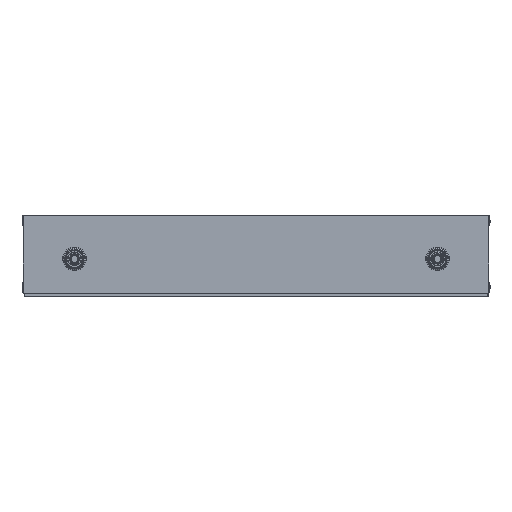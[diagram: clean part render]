
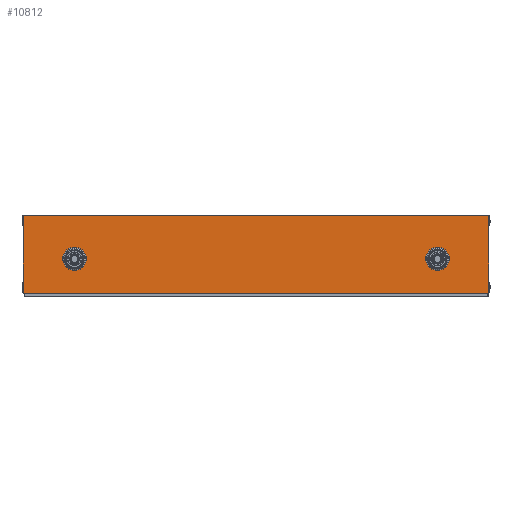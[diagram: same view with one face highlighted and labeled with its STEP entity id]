
A CAD part, front view. The second image highlights one B-rep face of the part: STEP entity #10812.
In plain terms, the highlighted planar face has unit normal (0, -1, 0) as drawn and (0, 0, -1) by its records, which use the part's own axes.
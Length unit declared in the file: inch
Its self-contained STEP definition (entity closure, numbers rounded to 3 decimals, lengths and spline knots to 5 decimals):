
#72 = DIRECTION ( 'NONE',  ( 1., 0., 0. ) ) ;
#74 = ORIENTED_EDGE ( 'NONE', *, *, #2788, .F. ) ;
#244 = DIRECTION ( 'NONE',  ( 1., 0., 0. ) ) ;
#506 = DIRECTION ( 'NONE',  ( 0., 0., 1. ) ) ;
#1748 = AXIS2_PLACEMENT_3D ( 'NONE', #9332, #14907, #17569 ) ;
#1884 = DIRECTION ( 'NONE',  ( 0., 0., 1. ) ) ;
#1920 = PLANE ( 'NONE',  #1748 ) ;
#2491 = LINE ( 'NONE', #7703, #7451 ) ;
#2788 = EDGE_CURVE ( 'NONE', #5948, #18733, #2491, .T. ) ;
#2857 = VERTEX_POINT ( 'NONE', #6608 ) ;
#2869 = DIRECTION ( 'NONE',  ( 0., 0., 1. ) ) ;
#2981 = EDGE_CURVE ( 'NONE', #15999, #15242, #5924, .T. ) ;
#3385 = LINE ( 'NONE', #11358, #23269 ) ;
#4422 = CARTESIAN_POINT ( 'NONE',  ( 0., 0., 0. ) ) ;
#5068 = AXIS2_PLACEMENT_3D ( 'NONE', #16865, #506, #244 ) ;
#5137 = DIRECTION ( 'NONE',  ( 1., 0., 0. ) ) ;
#5213 = CARTESIAN_POINT ( 'NONE',  ( 5.70995, 3.93585, 0. ) ) ;
#5511 = CARTESIAN_POINT ( 'NONE',  ( 38.60583, 3.93596, 0. ) ) ;
#5675 = DIRECTION ( 'NONE',  ( 0., 1., 0. ) ) ;
#5924 = CIRCLE ( 'NONE', #15232, 1.0625 ) ;
#5948 = VERTEX_POINT ( 'NONE', #4422 ) ;
#6608 = CARTESIAN_POINT ( 'NONE',  ( 0., 7.05476, 0. ) ) ;
#6962 = ORIENTED_EDGE ( 'NONE', *, *, #20545, .F. ) ;
#7082 = ORIENTED_EDGE ( 'NONE', *, *, #2981, .T. ) ;
#7341 = CIRCLE ( 'NONE', #11641, 1.0625 ) ;
#7451 = VECTOR ( 'NONE', #13034, 39.37008 ) ;
#7578 = AXIS2_PLACEMENT_3D ( 'NONE', #9297, #1884, #72 ) ;
#7703 = CARTESIAN_POINT ( 'NONE',  ( 0., 0., 0. ) ) ;
#8505 = EDGE_CURVE ( 'NONE', #15242, #15999, #16864, .T. ) ;
#9297 = CARTESIAN_POINT ( 'NONE',  ( 37.54333, 3.93596, 0. ) ) ;
#9332 = CARTESIAN_POINT ( 'NONE',  ( 0., 0., 0. ) ) ;
#9388 = ORIENTED_EDGE ( 'NONE', *, *, #17051, .F. ) ;
#9434 = LINE ( 'NONE', #18418, #10639 ) ;
#10101 = CIRCLE ( 'NONE', #5068, 1.0625 ) ;
#10330 = EDGE_CURVE ( 'NONE', #22002, #11875, #7341, .T. ) ;
#10639 = VECTOR ( 'NONE', #5675, 39.37008 ) ;
#10812 = ADVANCED_FACE ( 'NONE', ( #15408, #11127, #18543 ), #1920, .T. ) ;
#11127 = FACE_OUTER_BOUND ( 'NONE', #14638, .T. ) ;
#11358 = CARTESIAN_POINT ( 'NONE',  ( 0., 0., 0. ) ) ;
#11507 = CARTESIAN_POINT ( 'NONE',  ( 42.1875, 0., 0. ) ) ;
#11641 = AXIS2_PLACEMENT_3D ( 'NONE', #22888, #2869, #17290 ) ;
#11704 = ORIENTED_EDGE ( 'NONE', *, *, #10330, .T. ) ;
#11875 = VERTEX_POINT ( 'NONE', #5213 ) ;
#13034 = DIRECTION ( 'NONE',  ( 1., 0., 0. ) ) ;
#13562 = CARTESIAN_POINT ( 'NONE',  ( 42.1875, 7.05476, 0. ) ) ;
#13988 = ORIENTED_EDGE ( 'NONE', *, *, #18800, .T. ) ;
#14583 = DIRECTION ( 'NONE',  ( -1., 0., 0. ) ) ;
#14638 = EDGE_LOOP ( 'NONE', ( #9388, #6962, #16960, #74 ) ) ;
#14907 = DIRECTION ( 'NONE',  ( 0., 0., -1. ) ) ;
#15232 = AXIS2_PLACEMENT_3D ( 'NONE', #18109, #21746, #5137 ) ;
#15242 = VERTEX_POINT ( 'NONE', #21062 ) ;
#15408 = FACE_BOUND ( 'NONE', #19158, .T. ) ;
#15999 = VERTEX_POINT ( 'NONE', #5511 ) ;
#16385 = VECTOR ( 'NONE', #14583, 39.37008 ) ;
#16398 = CARTESIAN_POINT ( 'NONE',  ( 42.1875, 7.05476, 0. ) ) ;
#16468 = EDGE_LOOP ( 'NONE', ( #21239, #7082 ) ) ;
#16864 = CIRCLE ( 'NONE', #7578, 1.0625 ) ;
#16865 = CARTESIAN_POINT ( 'NONE',  ( 4.64745, 3.93585, 0. ) ) ;
#16960 = ORIENTED_EDGE ( 'NONE', *, *, #22965, .F. ) ;
#17051 = EDGE_CURVE ( 'NONE', #2857, #5948, #3385, .T. ) ;
#17290 = DIRECTION ( 'NONE',  ( 1., 0., 0. ) ) ;
#17569 = DIRECTION ( 'NONE',  ( -1., 0., 0. ) ) ;
#18051 = CARTESIAN_POINT ( 'NONE',  ( 3.58495, 3.93585, 0. ) ) ;
#18109 = CARTESIAN_POINT ( 'NONE',  ( 37.54333, 3.93596, 0. ) ) ;
#18418 = CARTESIAN_POINT ( 'NONE',  ( 42.1875, 0., 0. ) ) ;
#18543 = FACE_BOUND ( 'NONE', #16468, .T. ) ;
#18733 = VERTEX_POINT ( 'NONE', #11507 ) ;
#18800 = EDGE_CURVE ( 'NONE', #11875, #22002, #10101, .T. ) ;
#19158 = EDGE_LOOP ( 'NONE', ( #11704, #13988 ) ) ;
#20545 = EDGE_CURVE ( 'NONE', #23152, #2857, #21860, .T. ) ;
#20979 = DIRECTION ( 'NONE',  ( 0., -1., 0. ) ) ;
#21062 = CARTESIAN_POINT ( 'NONE',  ( 36.48083, 3.93596, 0. ) ) ;
#21239 = ORIENTED_EDGE ( 'NONE', *, *, #8505, .T. ) ;
#21746 = DIRECTION ( 'NONE',  ( 0., 0., 1. ) ) ;
#21860 = LINE ( 'NONE', #16398, #16385 ) ;
#22002 = VERTEX_POINT ( 'NONE', #18051 ) ;
#22888 = CARTESIAN_POINT ( 'NONE',  ( 4.64745, 3.93585, 0. ) ) ;
#22965 = EDGE_CURVE ( 'NONE', #18733, #23152, #9434, .T. ) ;
#23152 = VERTEX_POINT ( 'NONE', #13562 ) ;
#23269 = VECTOR ( 'NONE', #20979, 39.37008 ) ;
